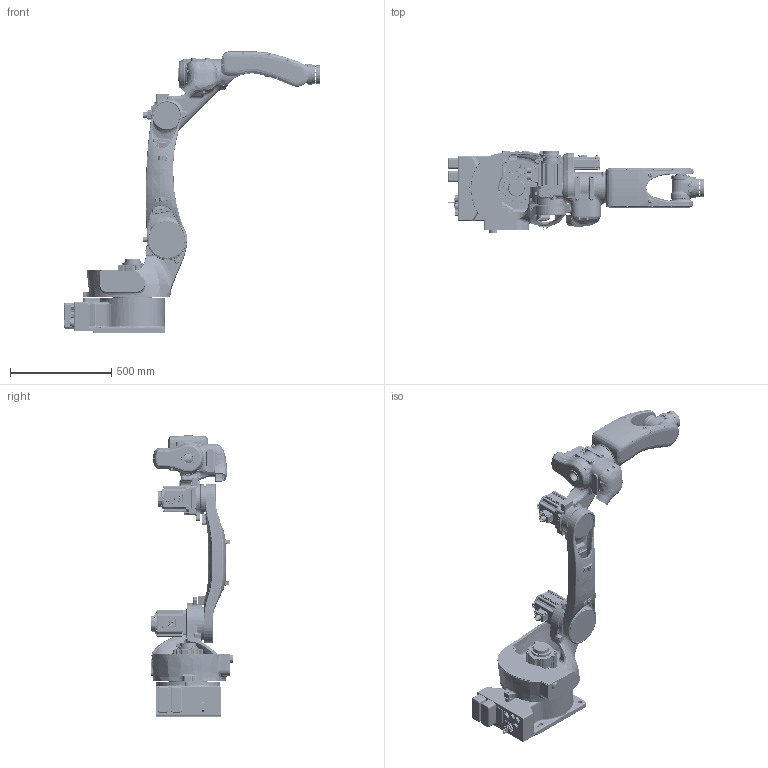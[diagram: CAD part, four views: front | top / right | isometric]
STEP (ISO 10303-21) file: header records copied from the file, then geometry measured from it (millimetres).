
FILE_DESCRIPTION (( 'STEP AP214' ), '1' );
FILE_NAME ('RH14-10 唸堍唳C(俋楷).STEP', '2021-04-25T00:35:48', ( '' ), ( '' ), 'SwSTEP 2.0', 'SolidWorks 2016', '' );
FILE_SCHEMA (( 'AUTOMOTIVE_DESIGN' ));
Length unit declared in the file: millimetre
Products named in the file (7): CR1401 菁釱shell; CR1403 湮旋shell; RH14-10 唸堍唳C(俋楷); CR1402 殈窒shell; CR1405MC 苤旋郪璃 shell; CR1404 紵窒shell; CR140600C勂窒郪璃
Assembly tree (6 placements, depth 2):
  RH14-10 唸堍唳C(俋楷)
    CR1401 菁釱shell
    CR1402 殈窒shell
    CR1403 湮旋shell
    CR1404 紵窒shell
    CR1405MC 苤旋郪璃 shell
    CR140600C勂窒郪璃
Bounding box: 1263.4 x 408 x 1387 mm (x, y, z)
Volume: 3268338.8 mm3; surface area: 3689120.6 mm2
Topology: 129 solids, 342 shells, 11600 faces, 31634 edges, 19972 vertices
Faces by surface type: plane 3981, cylinder 3607, bspline 1957, cone 1400, torus 559, sphere 96
Entity records: 607847 total; most frequent: CARTESIAN_POINT 243933, ORIENTED_EDGE 57005, DIRECTION 55846, EDGE_CURVE 30745, AXIS2_PLACEMENT_3D 21346, VERTEX_POINT 19913, VECTOR 13154, LINE 13154
